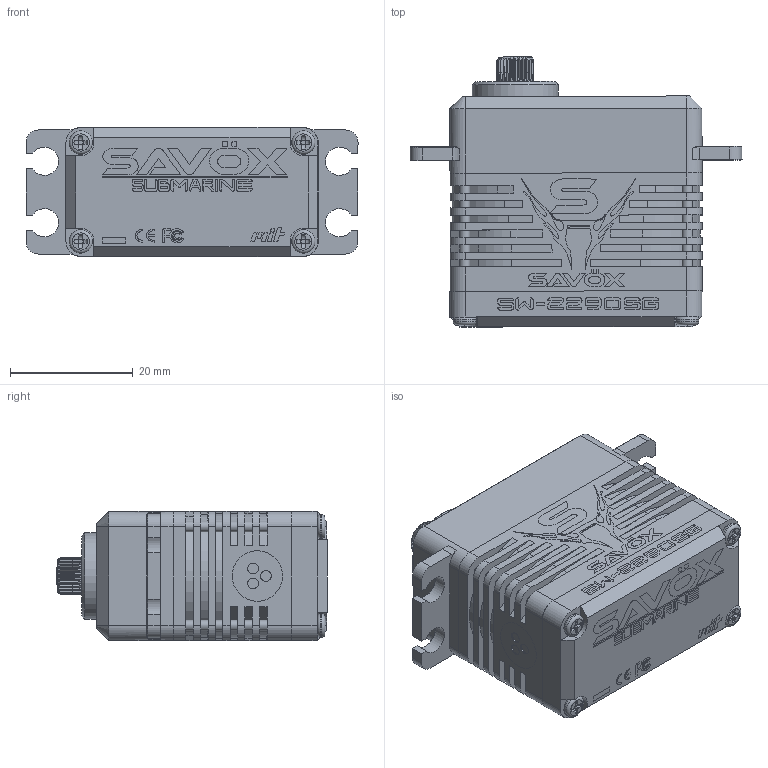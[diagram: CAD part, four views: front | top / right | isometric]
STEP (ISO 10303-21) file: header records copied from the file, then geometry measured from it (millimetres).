
FILE_DESCRIPTION (( 'STEP AP214' ), '1' );
FILE_NAME ('SW-2290SG_3D??+??.STEP', '2025-04-18T15:00:49', ( '' ), ( '' ), 'SwSTEP 2.0', 'SolidWorks 2024', '' );
FILE_SCHEMA (( 'AUTOMOTIVE_DESIGN' ));
Length unit declared in the file: millimetre
Products named in the file (1): SW-2290SG_3D零件+齒輪
Bounding box: 54 x 43.92 x 21 mm (x, y, z)
Volume: 31804 mm3; surface area: 8103.3 mm2
Topology: 1 solids, 1 shells, 688 faces, 3527 edges, 2970 vertices
Faces by surface type: plane 368, cylinder 193, cone 90, torus 37
Full cylindrical faces by diameter (mm): 1.7 x26, 1.75 x3, 2.5 x1, 3.8 x4, 6.1 x1, 14 x1
Entity records: 47138 total; most frequent: CARTESIAN_POINT 13066, ORIENTED_EDGE 6924, DIRECTION 3828, EDGE_CURVE 3462, VERTEX_POINT 2955, LINE 1576, VECTOR 1576, B_SPLINE_CURVE_WITH_KNOTS 1387
